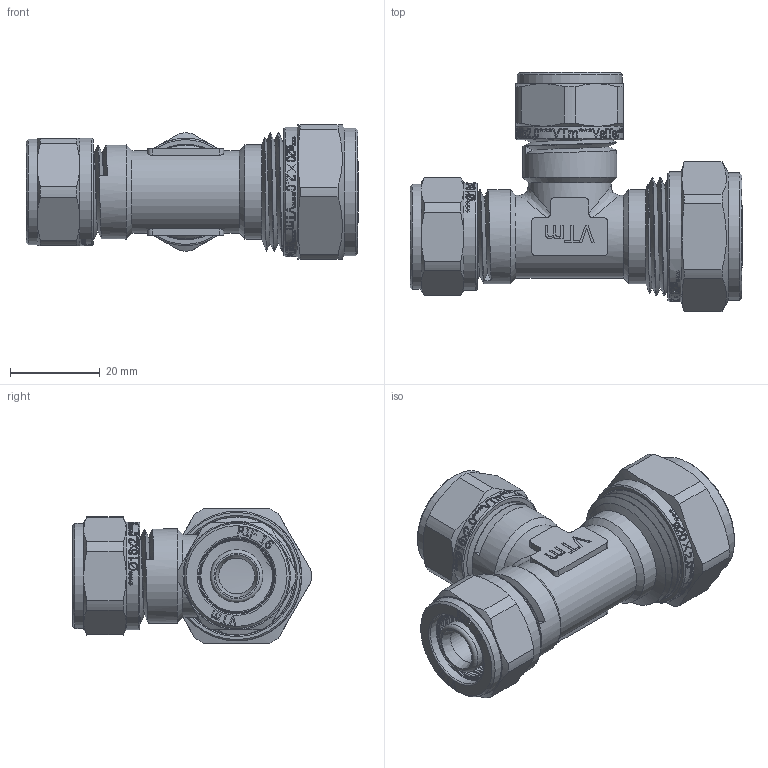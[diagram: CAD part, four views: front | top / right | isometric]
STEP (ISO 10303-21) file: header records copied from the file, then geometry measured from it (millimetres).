
FILE_DESCRIPTION(/* description */ (''),/* implementation_level */ '2;1');
FILE_NAME(/* name */ 'E:\Артём\00000\Работа удаленка\Обжимные фитинги\VTm.331.N.201616.stp',/* time_stamp */ '2020-06-30T12:57:35+03:00',/* author */ ('BeN_GaN'),/* organization */ (''),/* preprocessor_version */ 'ST-DEVELOPER v18',/* originating_system */ 'Autodesk Inventor 2020',/* authorisation */ '');
FILE_SCHEMA (('AUTOMOTIVE_DESIGN { 1 0 10303 214 3 1 1 }'));
Length unit declared in the file: millimetre
Products named in the file (1): VTm.331.N.201616
Bounding box: 74.17 x 53.39 x 30 mm (x, y, z)
Volume: 30525 mm3; surface area: 21488.7 mm2
Topology: 1 solids, 2 shells, 1999 faces, 5591 edges, 3758 vertices
Faces by surface type: bspline 1060, plane 575, cylinder 232, torus 72, cone 60
Full cylindrical faces by diameter (mm): 8 x2, 9.4 x4, 11.5 x1, 11.75 x8, 13.4 x2, 15.75 x4, 16 x8, 16.2 x2, 16.6 x10, 17 x2, 17.4 x6, 18.5 x2, 18.6 x8, 19.986 x4, 20.2 x1, 20.728 x5, 21 x4, 23.201 x1, 23.5 x2, 24 x2, 24.2 x2, 26.4 x2, 28.5 x1, 29 x1
Entity records: 85477 total; most frequent: CARTESIAN_POINT 40646, ORIENTED_EDGE 11186, DIRECTION 6114, EDGE_CURVE 5593, VERTEX_POINT 3760, LINE 2402, VECTOR 2402, B_SPLINE_CURVE_WITH_KNOTS 2215
